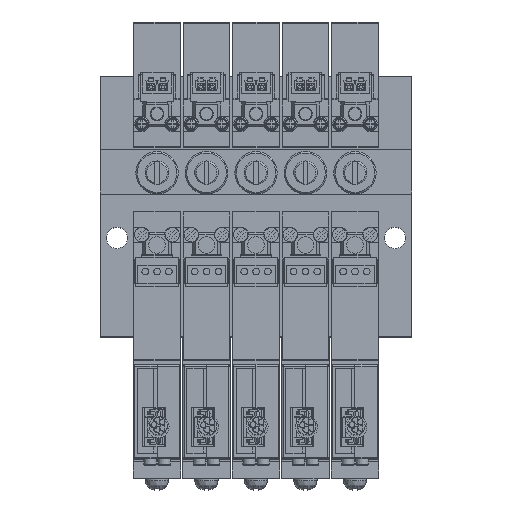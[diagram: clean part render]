
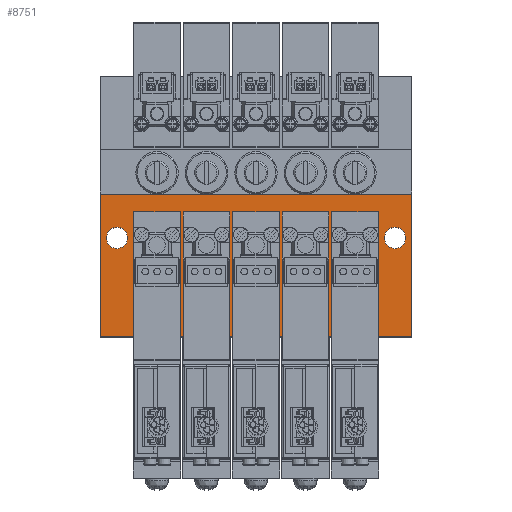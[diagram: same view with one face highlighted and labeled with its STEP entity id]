
A CAD part, top view. The second image highlights one B-rep face of the part: STEP entity #8751.
In plain terms, the highlighted planar face has unit normal (0, 0, 1).
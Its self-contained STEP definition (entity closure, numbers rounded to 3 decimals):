
#8751=ADVANCED_FACE('',(#15100,#15101,#15102),#15103,.F.);
#15100=FACE_BOUND('',#28087,.T.);
#15101=FACE_BOUND('',#28088,.T.);
#15102=FACE_OUTER_BOUND('',#28089,.T.);
#15103=PLANE('',#28090);
#28087=EDGE_LOOP('',(#42867));
#28088=EDGE_LOOP('',(#42868));
#28089=EDGE_LOOP('',(#42869,#42870,#42871,#42872));
#28090=AXIS2_PLACEMENT_3D('',#42873,#42874,#42875);
#42867=ORIENTED_EDGE('',*,*,#92950,.F.);
#42868=ORIENTED_EDGE('',*,*,#92951,.F.);
#42869=ORIENTED_EDGE('',*,*,#92952,.F.);
#42870=ORIENTED_EDGE('',*,*,#92953,.F.);
#42871=ORIENTED_EDGE('',*,*,#92954,.T.);
#42872=ORIENTED_EDGE('',*,*,#92948,.T.);
#42873=CARTESIAN_POINT('',(-66.0,30.3,14.8));
#42874=DIRECTION('',(0.0,0.0,-1.0));
#42875=DIRECTION('',(1.0,0.0,0.0));
#92948=EDGE_CURVE('',#109090,#109088,#109091,.T.);
#92950=EDGE_CURVE('',#109093,#109093,#109094,.T.);
#92951=EDGE_CURVE('',#109095,#109095,#109096,.T.);
#92952=EDGE_CURVE('',#109097,#109088,#109098,.T.);
#92953=EDGE_CURVE('',#109099,#109097,#109100,.T.);
#92954=EDGE_CURVE('',#109099,#109090,#109101,.T.);
#109088=VERTEX_POINT('',#136181);
#109090=VERTEX_POINT('',#136184);
#109091=LINE('',#136185,#136186);
#109093=VERTEX_POINT('',#136189);
#109094=CIRCLE('',#136190,2.25);
#109095=VERTEX_POINT('',#136191);
#109096=CIRCLE('',#136192,2.25);
#109097=VERTEX_POINT('',#136193);
#109098=LINE('',#136194,#136195);
#109099=VERTEX_POINT('',#136196);
#109100=LINE('',#136197,#136198);
#109101=LINE('',#136199,#136200);
#136181=CARTESIAN_POINT('',(0.0,0.,14.8));
#136184=CARTESIAN_POINT('',(-66.0,0.,14.8));
#136185=CARTESIAN_POINT('',(-66.0,0.,14.8));
#136186=VECTOR('',#179185,1.0);
#136189=CARTESIAN_POINT('',(-60.25,21.0,14.8));
#136190=AXIS2_PLACEMENT_3D('',#179187,#179188,#179189);
#136191=CARTESIAN_POINT('',(-1.25,21.0,14.8));
#136192=AXIS2_PLACEMENT_3D('',#179190,#179191,#179192);
#136193=CARTESIAN_POINT('',(0.0,30.3,14.8));
#136194=CARTESIAN_POINT('',(0.0,30.3,14.8));
#136195=VECTOR('',#179193,1.0);
#136196=CARTESIAN_POINT('',(-66.0,30.3,14.8));
#136197=CARTESIAN_POINT('',(-66.0,30.3,14.8));
#136198=VECTOR('',#179194,1.0);
#136199=CARTESIAN_POINT('',(-66.0,30.3,14.8));
#136200=VECTOR('',#179195,1.0);
#179185=DIRECTION('',(1.0,0.0,0.0));
#179187=CARTESIAN_POINT('',(-62.5,21.0,14.8));
#179188=DIRECTION('',(0.0,0.0,1.0));
#179189=DIRECTION('',(1.0,0.0,0.0));
#179190=CARTESIAN_POINT('',(-3.5,21.0,14.8));
#179191=DIRECTION('',(0.0,0.0,1.0));
#179192=DIRECTION('',(1.0,0.0,0.0));
#179193=DIRECTION('',(0.0,-1.0,0.0));
#179194=DIRECTION('',(1.0,0.0,0.0));
#179195=DIRECTION('',(0.0,-1.0,0.0));
